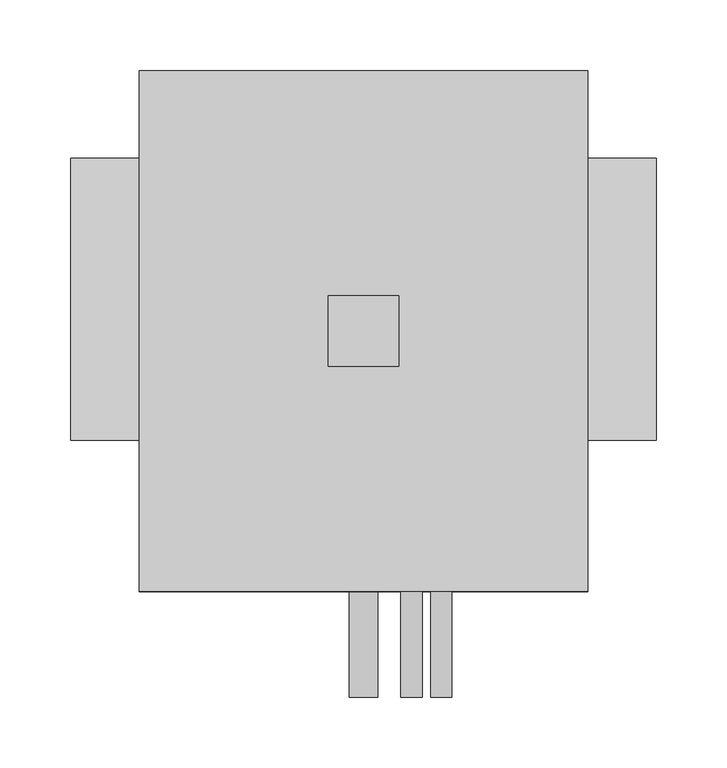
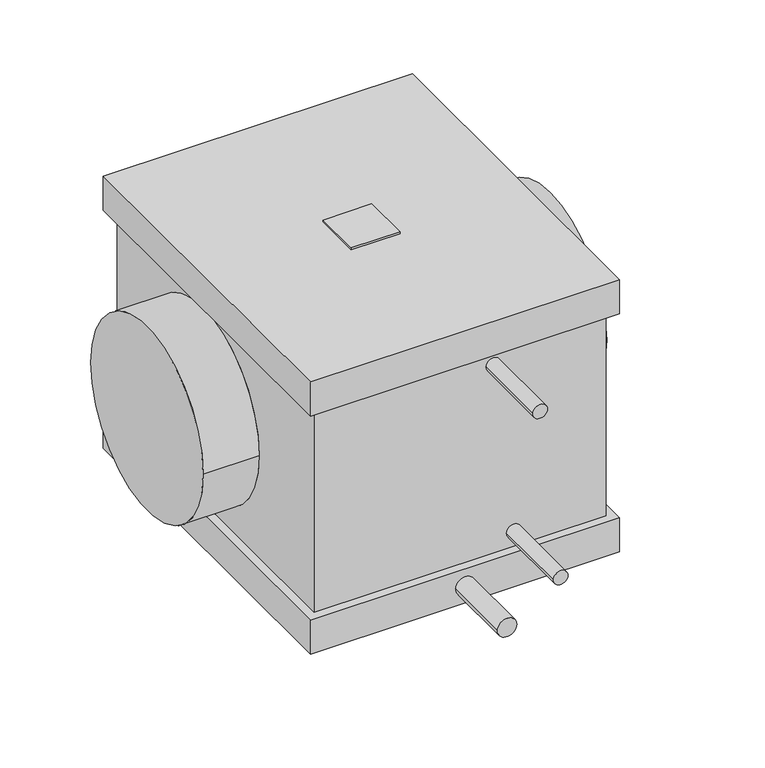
"""IFC4 building model written with IfcOpenShell, lengths in millimetres: proxy geometry, KORF_Охладитель_Водяной_Круглый_Левый_KWLO : KWLO 200/2."""

from ifc_helpers import new_model, si_unit, point, frame, frame_2d, origin, place, context, project, spatial, polyline, circle_curve, trimmed, segment, composite_curve, outline, extrude, source, transform, mapped, element, save
from ifc_brep_helpers import plane_surface, cylinder_surface, advanced_brep


def mechanical_equipment_3f61a7cd(model_context):
    return source(origin(), model_context, "Body", "SolidModel", [
        extrude(outline(polyline([(232.5, 2.5), (232.5, -47.5), (182.5, -47.5), (182.5, 2.5), (232.5, 2.5)])), frame((0.0, 0.0, 148.0), z_axis=(0.0, 0.0, 1.0), x_axis=(1.0, 0.0, 0.0)), (0.0, 0.0, 1.0), 2.0),
        advanced_brep(
        [(415.0, -100.0, 0.0), (415.0, 100.0, 0.0), (0.0, -100.0, 0.0), (0.0, 100.0, 0.0), (357.5, -100.0, 0.0), (357.5, 100.0, 0.0), (57.5, 100.0, 0.0), (57.5, -100.0, 0.0), (357.5, -198.0, -111.0), (357.5, 153.0, -111.0), (357.5, 153.0, 111.0), (357.5, -198.0, 111.0), (57.5, 153.0, -111.0), (57.5, -198.0, -111.0), (57.5, -198.0, 111.0), (57.5, 153.0, 111.0), (366.5, 162.0, -148.0), (366.5, -207.0, -148.0), (48.5, -207.0, -148.0), (48.5, 162.0, -148.0), (366.5, -207.0, 148.0), (366.5, 162.0, 148.0), (48.5, 162.0, 148.0), (48.5, -207.0, 148.0), (366.5, 162.0, -111.0), (366.5, -207.0, -111.0), (48.5, -207.0, -111.0), (48.5, 162.0, -111.0), (366.5, 162.0, 111.0), (366.5, -207.0, 111.0), (48.5, -207.0, 111.0), (48.5, 162.0, 111.0)],
        [
            (0, 1, circle_curve(frame((415.0, 0.0, 0.0), z_axis=(1.0, 0.0, 0.0), x_axis=(0.0, 1.0, 0.0)), 100.0)),
            (1, 0, circle_curve(frame((415.0, 0.0, 0.0), z_axis=(1.0, 0.0, 0.0), x_axis=(0.0, 1.0, 0.0)), 100.0)),
            (2, 3, circle_curve(frame((0.0, 0.0, 0.0), z_axis=(-1.0, 0.0, 0.0), x_axis=(0.0, 1.0, 0.0)), 100.0)),
            (3, 2, circle_curve(frame((0.0, 0.0, 0.0), z_axis=(-1.0, 0.0, 0.0), x_axis=(0.0, 1.0, 0.0)), 100.0)),
            (0, 4),
            (4, 5, circle_curve(frame((357.5, 0.0, 0.0), z_axis=(1.0, 0.0, 0.0), x_axis=(0.0, 1.0, 0.0)), 100.0)),
            (5, 1),
            (3, 6),
            (6, 7, circle_curve(frame((57.5, 0.0, 0.0), z_axis=(-1.0, 0.0, 0.0), x_axis=(0.0, 1.0, 0.0)), 100.0)),
            (7, 2),
            (5, 4, circle_curve(frame((357.5, 0.0, 0.0), z_axis=(1.0, 0.0, 0.0), x_axis=(0.0, 1.0, 0.0)), 100.0)),
            (7, 6, circle_curve(frame((57.5, 0.0, 0.0), z_axis=(-1.0, 0.0, 0.0), x_axis=(0.0, 1.0, 0.0)), 100.0)),
            (8, 9),
            (9, 10),
            (10, 11),
            (11, 8),
            (12, 13),
            (13, 14),
            (14, 15),
            (15, 12),
            (13, 8),
            (11, 14),
            (16, 17),
            (17, 18),
            (18, 19),
            (19, 16),
            (9, 12),
            (15, 10),
            (20, 21),
            (21, 22),
            (22, 23),
            (23, 20),
            (16, 24),
            (24, 25),
            (25, 17),
            (25, 26),
            (26, 18),
            (26, 27),
            (27, 19),
            (24, 27),
            (28, 21),
            (20, 29),
            (29, 28),
            (23, 30),
            (30, 29),
            (22, 31),
            (31, 30),
            (28, 31),
        ],
        [
            plane_surface(frame((415.0, 100.0, 0.0), z_axis=(1.0, 0.0, 0.0), x_axis=(0.0, 0.0, 1.0))),
            plane_surface(frame((0.0, 100.0, 0.0), z_axis=(-1.0, 0.0, 0.0), x_axis=(0.0, 0.0, -1.0))),
            cylinder_surface(frame((0.0, 0.0, 0.0), z_axis=(1.0, 0.0, 0.0), x_axis=(0.0, 1.0, 0.0)), 100.0),
            plane_surface(frame((357.5, -198.0, 148.0), z_axis=(1.0, 0.0, 0.0), x_axis=(0.0, 0.0, -1.0))),
            plane_surface(frame((57.5, -198.0, 148.0), z_axis=(-1.0, 0.0, 0.0), x_axis=(0.0, 0.0, 1.0))),
            plane_surface(frame((357.5, -198.0, 148.0), z_axis=(0.0, -1.0, 0.0), x_axis=(-1.0, 0.0, 0.0))),
            plane_surface(frame((357.5, -198.0, -148.0), z_axis=(0.0, 0.0, -1.0), x_axis=(-1.0, 0.0, 0.0))),
            plane_surface(frame((357.5, 153.0, -148.0), z_axis=(0.0, 1.0, 0.0), x_axis=(-1.0, 0.0, 0.0))),
            plane_surface(frame((357.5, 153.0, 148.0), z_axis=(0.0, 0.0, 1.0), x_axis=(-1.0, 0.0, 0.0))),
            plane_surface(frame((366.5, 162.0, -111.0), z_axis=(1.0, 0.0, 0.0), x_axis=(0.0, -1.0, 0.0))),
            plane_surface(frame((366.5, -207.0, -111.0), z_axis=(0.0, -1.0, 0.0), x_axis=(-1.0, 0.0, 0.0))),
            plane_surface(frame((48.5, -207.0, -111.0), z_axis=(-1.0, 0.0, 0.0), x_axis=(0.0, 1.0, 0.0))),
            plane_surface(frame((57.5, 153.0, -111.0), z_axis=(0.0, 0.0, 1.0), x_axis=(1.0, 0.0, 0.0))),
            plane_surface(frame((48.5, 162.0, -111.0), z_axis=(0.0, 1.0, 0.0), x_axis=(1.0, 0.0, 0.0))),
            plane_surface(frame((366.5, 162.0, 148.0), z_axis=(1.0, 0.0, 0.0), x_axis=(0.0, -1.0, 0.0))),
            plane_surface(frame((366.5, -207.0, 148.0), z_axis=(0.0, -1.0, 0.0), x_axis=(-1.0, 0.0, 0.0))),
            plane_surface(frame((48.5, -207.0, 148.0), z_axis=(-1.0, 0.0, 0.0), x_axis=(0.0, 1.0, 0.0))),
            plane_surface(frame((48.5, 162.0, 148.0), z_axis=(0.0, 1.0, 0.0), x_axis=(1.0, 0.0, 0.0))),
            plane_surface(frame((48.5, 162.0, 111.0), z_axis=(0.0, 0.0, -1.0), x_axis=(1.0, 0.0, 0.0))),
        ],
        [
            (0, [[1, 2]]),
            (1, [[3, 4]]),
            (2, [[-1, 5, 6, 7]]),
            (2, [[-4, 8, 9, 10]]),
            (2, [[-2, -7, 11, -5]]),
            (2, [[-3, -10, 12, -8]]),
            (3, [[13, 14, 15, 16], [-6, -11]]),
            (4, [[17, 18, 19, 20], [-9, -12]]),
            (5, [[21, -16, 22, -18]]),
            (6, [[23, 24, 25, 26]]),
            (7, [[27, -20, 28, -14]]),
            (8, [[29, 30, 31, 32]]),
            (9, [[33, 34, 35, -23]]),
            (10, [[-35, 36, 37, -24]]),
            (11, [[-37, 38, 39, -25]]),
            (12, [[-34, 40, -38, -36], [-13, -21, -17, -27]]),
            (13, [[-33, -26, -39, -40]]),
            (14, [[41, -29, 42, 43]]),
            (15, [[-42, -32, 44, 45]]),
            (16, [[-44, -31, 46, 47]]),
            (17, [[-41, 48, -46, -30]]),
            (18, [[-43, -45, -47, -48], [-15, -28, -19, -22]]),
        ],
    ),
        extrude(outline(composite_curve([segment(trimmed(circle_curve(frame_2d((-94.0, 262.5)), 7.5), [point((-94.0, 255.0))], [point((-94.0, 270.0))], False, "CARTESIAN"), True, "CONTINUOUS"), segment(trimmed(circle_curve(frame_2d((-94.0, 262.5)), 7.5), [point((-94.0, 270.0))], [point((-94.0, 255.0))], False, "CARTESIAN"), True, "CONTINUOUS")], self_intersect=False)), frame((0.0, -282.0, 0.0), z_axis=(0.0, 1.0, 0.0), x_axis=(0.0, 0.0, 1.0)), (0.0, 0.0, 1.0), 84.0),
        extrude(outline(composite_curve([segment(trimmed(circle_curve(frame_2d((94.0, 241.5)), 7.5), [point((94.0, 234.0))], [point((94.0, 249.0))], False, "CARTESIAN"), True, "CONTINUOUS"), segment(trimmed(circle_curve(frame_2d((94.0, 241.5)), 7.5), [point((94.0, 249.0))], [point((94.0, 234.0))], False, "CARTESIAN"), True, "CONTINUOUS")], self_intersect=False)), frame((0.0, -282.0, 0.0), z_axis=(0.0, 1.0, 0.0), x_axis=(0.0, 0.0, 1.0)), (0.0, 0.0, 1.0), 84.0),
        extrude(outline(composite_curve([segment(trimmed(circle_curve(frame_2d((-129.0, 207.5)), 10.0), [point((-129.0, 197.5))], [point((-129.0, 217.5))], False, "CARTESIAN"), True, "CONTINUOUS"), segment(trimmed(circle_curve(frame_2d((-129.0, 207.5)), 10.0), [point((-129.0, 217.5))], [point((-129.0, 197.5))], False, "CARTESIAN"), True, "CONTINUOUS")], self_intersect=False)), frame((0.0, -282.0, 0.0), z_axis=(0.0, 1.0, 0.0), x_axis=(0.0, 0.0, 1.0)), (0.0, 0.0, 1.0), 75.0),
    ])


if __name__ == "__main__":
    model = new_model("IFC4")
    model_context = context("Model", 3, world=origin())
    ifc_project = project(units=[si_unit("LENGTHUNIT", "METRE", prefix="MILLI")], contexts=[model_context])
    site = spatial("IfcSite", under=ifc_project)
    building = spatial("IfcBuilding", under=site)
    placement = place(None, origin())
    mechanical_equipment_shape = mechanical_equipment_3f61a7cd(model_context)
    element("IfcBuildingElementProxy", 1, Name="KORF_Охладитель_Водяной_Круглый_Левый_KWLO : KWLO 200/2", ObjectType="KORF_Охладитель_Водяной_Круглый_Левый_KWLO : KWLO 200/2", at=placement, inside=building, context=model_context, shape_type="MappedRepresentation", body=[
        mapped(mechanical_equipment_shape, transform((0.0, 0.0, 0.0), x_axis=(1.0, 0.0, 0.0), y_axis=(0.0, 1.0, 0.0), z_axis=(0.0, 0.0, 1.0))),
    ])
    save(model, "model.ifc")
